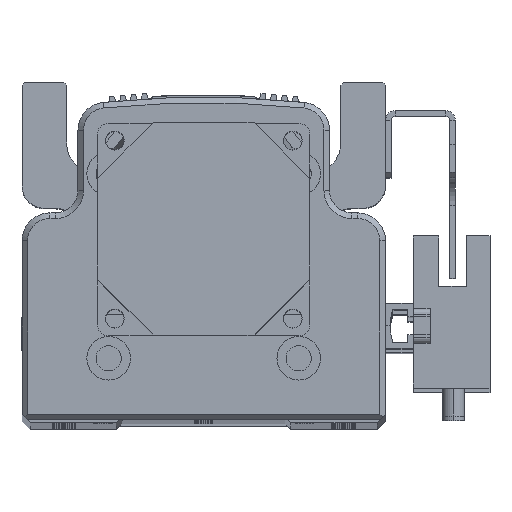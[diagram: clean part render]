
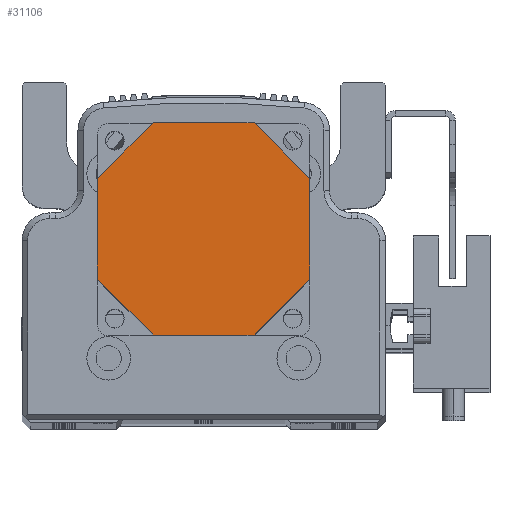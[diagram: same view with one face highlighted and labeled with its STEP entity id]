
A CAD part, top view. The second image highlights one B-rep face of the part: STEP entity #31106.
In plain terms, the highlighted planar face has unit normal (0, 0, 1) as drawn and (0, 0, -1) by its records, which use the part's own axes.
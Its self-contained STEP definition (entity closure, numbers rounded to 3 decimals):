
#20 = CARTESIAN_POINT ( 'NONE',  ( -9., 19., -84. ) ) ;
#10354 = AXIS2_PLACEMENT_3D ( 'NONE', #18511, #18510, #18497 ) ;
#18495 = PLANE ( 'NONE',  #10354 ) ;
#18497 = DIRECTION ( 'NONE',  ( 1., 0., 0. ) ) ;
#18510 = DIRECTION ( 'NONE',  ( 0., 0., 1. ) ) ;
#18511 = CARTESIAN_POINT ( 'NONE',  ( 0., 0., -84. ) ) ;
#19567 = ORIENTED_EDGE ( 'NONE', *, *, #37082, .T. ) ;
#19569 = ORIENTED_EDGE ( 'NONE', *, *, #37162, .T. ) ;
#19576 = ORIENTED_EDGE ( 'NONE', *, *, #37101, .T. ) ;
#19586 = ORIENTED_EDGE ( 'NONE', *, *, #37181, .T. ) ;
#19595 = ORIENTED_EDGE ( 'NONE', *, *, #37198, .T. ) ;
#19598 = ORIENTED_EDGE ( 'NONE', *, *, #37166, .T. ) ;
#19620 = ORIENTED_EDGE ( 'NONE', *, *, #37143, .T. ) ;
#19633 = ORIENTED_EDGE ( 'NONE', *, *, #37196, .T. ) ;
#23248 = FACE_OUTER_BOUND ( 'NONE', #34314, .T. ) ;
#24433 = LINE ( 'NONE', #25398, #24511 ) ;
#24467 = VECTOR ( 'NONE', #25362, 1000. ) ;
#24480 = LINE ( 'NONE', #25343, #24467 ) ;
#24500 = LINE ( 'NONE', #25514, #24501 ) ;
#24501 = VECTOR ( 'NONE', #25586, 1000. ) ;
#24511 = VECTOR ( 'NONE', #25444, 1000. ) ;
#24545 = VECTOR ( 'NONE', #25647, 1000. ) ;
#24551 = LINE ( 'NONE', #25631, #24588 ) ;
#24558 = LINE ( 'NONE', #25622, #24583 ) ;
#24583 = VECTOR ( 'NONE', #25628, 1000. ) ;
#24588 = VECTOR ( 'NONE', #25610, 1000. ) ;
#24595 = LINE ( 'NONE', #25666, #24545 ) ;
#24611 = LINE ( 'NONE', #25724, #24632 ) ;
#24632 = VECTOR ( 'NONE', #25685, 1000. ) ;
#24633 = VECTOR ( 'NONE', #25686, 1000. ) ;
#24649 = LINE ( 'NONE', #25681, #24633 ) ;
#25343 = CARTESIAN_POINT ( 'NONE',  ( 9., 19., -84. ) ) ;
#25362 = DIRECTION ( 'NONE',  ( 1., 0., 0. ) ) ;
#25398 = CARTESIAN_POINT ( 'NONE',  ( 19., 9., -84. ) ) ;
#25444 = DIRECTION ( 'NONE',  ( 0., -1., 0. ) ) ;
#25514 = CARTESIAN_POINT ( 'NONE',  ( -9., 19., -84. ) ) ;
#25586 = DIRECTION ( 'NONE',  ( 0.707, 0.707, 0. ) ) ;
#25610 = DIRECTION ( 'NONE',  ( -0.707, -0.707, 0. ) ) ;
#25622 = CARTESIAN_POINT ( 'NONE',  ( 9., -19., -84. ) ) ;
#25628 = DIRECTION ( 'NONE',  ( -1., 0., 0. ) ) ;
#25631 = CARTESIAN_POINT ( 'NONE',  ( 19., -9., -84. ) ) ;
#25647 = DIRECTION ( 'NONE',  ( -0.707, 0.707, 0. ) ) ;
#25666 = CARTESIAN_POINT ( 'NONE',  ( -9., -19., -84. ) ) ;
#25681 = CARTESIAN_POINT ( 'NONE',  ( 19., 9., -84. ) ) ;
#25685 = DIRECTION ( 'NONE',  ( 0., 1., 0. ) ) ;
#25686 = DIRECTION ( 'NONE',  ( 0.707, -0.707, 0. ) ) ;
#25724 = CARTESIAN_POINT ( 'NONE',  ( -19., 9., -84. ) ) ;
#26750 = CARTESIAN_POINT ( 'NONE',  ( -19., 9., -84. ) ) ;
#29611 = VERTEX_POINT ( 'NONE', #26750 ) ;
#29626 = VERTEX_POINT ( 'NONE', #37589 ) ;
#29645 = VERTEX_POINT ( 'NONE', #37619 ) ;
#29660 = VERTEX_POINT ( 'NONE', #37575 ) ;
#29669 = VERTEX_POINT ( 'NONE', #37601 ) ;
#29686 = VERTEX_POINT ( 'NONE', #37597 ) ;
#29814 = VERTEX_POINT ( 'NONE', #37624 ) ;
#29831 = VERTEX_POINT ( 'NONE', #20 ) ;
#31106 = ADVANCED_FACE ( 'NONE', ( #23248 ), #18495, .F. ) ;
#34314 = EDGE_LOOP ( 'NONE', ( #19586, #19633, #19620, #19567, #19595, #19576, #19598, #19569 ) ) ;
#37082 = EDGE_CURVE ( 'NONE', #29831, #29814, #24480, .T. ) ;
#37101 = EDGE_CURVE ( 'NONE', #29626, #29669, #24433, .T. ) ;
#37143 = EDGE_CURVE ( 'NONE', #29611, #29831, #24500, .T. ) ;
#37162 = EDGE_CURVE ( 'NONE', #29645, #29660, #24558, .T. ) ;
#37166 = EDGE_CURVE ( 'NONE', #29669, #29645, #24551, .T. ) ;
#37181 = EDGE_CURVE ( 'NONE', #29660, #29686, #24595, .T. ) ;
#37196 = EDGE_CURVE ( 'NONE', #29686, #29611, #24611, .T. ) ;
#37198 = EDGE_CURVE ( 'NONE', #29814, #29626, #24649, .T. ) ;
#37575 = CARTESIAN_POINT ( 'NONE',  ( -9., -19., -84. ) ) ;
#37589 = CARTESIAN_POINT ( 'NONE',  ( 19., 9., -84. ) ) ;
#37597 = CARTESIAN_POINT ( 'NONE',  ( -19., -9., -84. ) ) ;
#37601 = CARTESIAN_POINT ( 'NONE',  ( 19., -9., -84. ) ) ;
#37619 = CARTESIAN_POINT ( 'NONE',  ( 9., -19., -84. ) ) ;
#37624 = CARTESIAN_POINT ( 'NONE',  ( 9., 19., -84. ) ) ;
